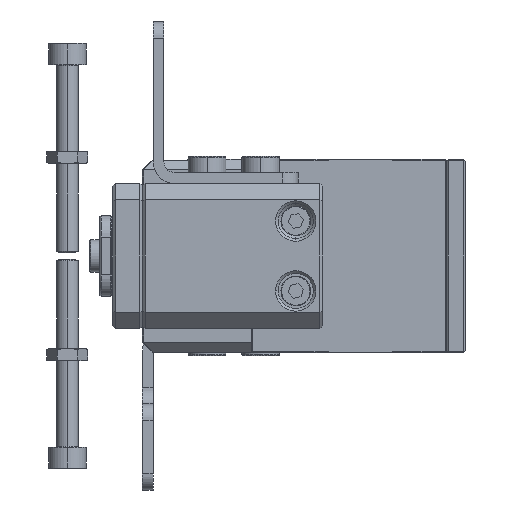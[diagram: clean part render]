
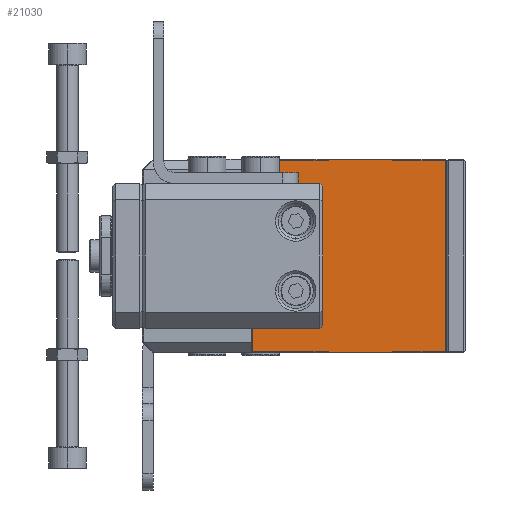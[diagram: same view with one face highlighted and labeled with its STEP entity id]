
A CAD part, left-side view. The second image highlights one B-rep face of the part: STEP entity #21030.
In plain terms, the highlighted planar face has unit normal (-1, 0, 0).
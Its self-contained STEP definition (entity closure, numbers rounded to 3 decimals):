
#434 = VERTEX_POINT ( 'NONE', #36302 ) ;
#1369 = DIRECTION ( 'NONE',  ( 0., 1., 0. ) ) ;
#2192 = VECTOR ( 'NONE', #10774, 1000. ) ;
#2861 = ORIENTED_EDGE ( 'NONE', *, *, #38662, .T. ) ;
#3137 = ORIENTED_EDGE ( 'NONE', *, *, #5703, .F. ) ;
#3786 = EDGE_CURVE ( 'NONE', #434, #41184, #24406, .T. ) ;
#5111 = DIRECTION ( 'NONE',  ( 0., 0., -1. ) ) ;
#5689 = CARTESIAN_POINT ( 'NONE',  ( -53.152, 13.5, -25.919 ) ) ;
#5703 = EDGE_CURVE ( 'NONE', #11508, #12780, #40966, .T. ) ;
#5709 = EDGE_CURVE ( 'NONE', #39042, #40172, #14459, .T. ) ;
#7203 = DIRECTION ( 'NONE',  ( 0., 0., -1. ) ) ;
#7246 = LINE ( 'NONE', #47754, #20368 ) ;
#7817 = DIRECTION ( 'NONE',  ( 0., 0., -1. ) ) ;
#8037 = ORIENTED_EDGE ( 'NONE', *, *, #5709, .T. ) ;
#8479 = CARTESIAN_POINT ( 'NONE',  ( -53.152, 24.5, -26.119 ) ) ;
#9526 = CARTESIAN_POINT ( 'NONE',  ( -53.152, 25.5, 9.881 ) ) ;
#9887 = VERTEX_POINT ( 'NONE', #44200 ) ;
#10543 = CARTESIAN_POINT ( 'NONE',  ( -53.152, 13.5, 9.881 ) ) ;
#10771 = CARTESIAN_POINT ( 'NONE',  ( -53.152, 25.5, 9.881 ) ) ;
#10774 = DIRECTION ( 'NONE',  ( 0., 1., 0. ) ) ;
#11508 = VERTEX_POINT ( 'NONE', #32191 ) ;
#11674 = VECTOR ( 'NONE', #1369, 1000. ) ;
#12049 = DIRECTION ( 'NONE',  ( 0., 0., -1. ) ) ;
#12512 = VECTOR ( 'NONE', #39031, 1000. ) ;
#12780 = VERTEX_POINT ( 'NONE', #29063 ) ;
#13190 = PLANE ( 'NONE',  #43911 ) ;
#13201 = EDGE_CURVE ( 'NONE', #41184, #11508, #44405, .T. ) ;
#14355 = DIRECTION ( 'NONE',  ( 0., 0., 1. ) ) ;
#14427 = ORIENTED_EDGE ( 'NONE', *, *, #24646, .F. ) ;
#14459 = LINE ( 'NONE', #26227, #18655 ) ;
#14634 = CARTESIAN_POINT ( 'NONE',  ( -53.152, 24.5, -25.919 ) ) ;
#15982 = CARTESIAN_POINT ( 'NONE',  ( -53.152, 24.5, 9.681 ) ) ;
#16207 = LINE ( 'NONE', #15982, #12512 ) ;
#16301 = DIRECTION ( 'NONE',  ( 0., 1., 0. ) ) ;
#18156 = DIRECTION ( 'NONE',  ( 0., 1., 0. ) ) ;
#18655 = VECTOR ( 'NONE', #18156, 1000. ) ;
#19264 = ORIENTED_EDGE ( 'NONE', *, *, #26380, .F. ) ;
#20368 = VECTOR ( 'NONE', #14355, 1000. ) ;
#20379 = CARTESIAN_POINT ( 'NONE',  ( -53.152, 25.5, -26.119 ) ) ;
#20444 = ORIENTED_EDGE ( 'NONE', *, *, #36875, .F. ) ;
#21007 = CARTESIAN_POINT ( 'NONE',  ( -53.152, 25.5, 9.681 ) ) ;
#21030 = ADVANCED_FACE ( 'NONE', ( #31355 ), #13190, .F. ) ;
#21813 = VERTEX_POINT ( 'NONE', #29782 ) ;
#23252 = DIRECTION ( 'NONE',  ( 1., 0., 0. ) ) ;
#23360 = LINE ( 'NONE', #45730, #44505 ) ;
#23481 = DIRECTION ( 'NONE',  ( 0., -1., 0. ) ) ;
#23499 = CARTESIAN_POINT ( 'NONE',  ( -53.152, 13.5, 9.881 ) ) ;
#23628 = EDGE_CURVE ( 'NONE', #21813, #36386, #40431, .T. ) ;
#23938 = ORIENTED_EDGE ( 'NONE', *, *, #48511, .F. ) ;
#24406 = LINE ( 'NONE', #8479, #42552 ) ;
#24646 = EDGE_CURVE ( 'NONE', #39042, #45867, #30865, .T. ) ;
#25793 = EDGE_CURVE ( 'NONE', #38083, #47325, #16207, .T. ) ;
#26227 = CARTESIAN_POINT ( 'NONE',  ( -53.152, 24.5, 9.881 ) ) ;
#26380 = EDGE_CURVE ( 'NONE', #12780, #47325, #7246, .T. ) ;
#28851 = ORIENTED_EDGE ( 'NONE', *, *, #23628, .F. ) ;
#29063 = CARTESIAN_POINT ( 'NONE',  ( -53.152, 39.5, -25.919 ) ) ;
#29299 = LINE ( 'NONE', #47716, #38990 ) ;
#29427 = DIRECTION ( 'NONE',  ( 0., 0., 1. ) ) ;
#29782 = CARTESIAN_POINT ( 'NONE',  ( -53.152, 3.7, -25.919 ) ) ;
#30036 = CARTESIAN_POINT ( 'NONE',  ( -53.152, 13.5, 9.681 ) ) ;
#30865 = LINE ( 'NONE', #23499, #32792 ) ;
#31355 = FACE_OUTER_BOUND ( 'NONE', #34519, .T. ) ;
#32009 = ORIENTED_EDGE ( 'NONE', *, *, #3786, .F. ) ;
#32191 = CARTESIAN_POINT ( 'NONE',  ( -53.152, 25.5, -25.919 ) ) ;
#32792 = VECTOR ( 'NONE', #7817, 1000. ) ;
#34519 = EDGE_LOOP ( 'NONE', ( #19264, #3137, #38475, #32009, #35471, #28851, #23938, #20444, #14427, #8037, #2861, #35052 ) ) ;
#34768 = LINE ( 'NONE', #46317, #45150 ) ;
#35052 = ORIENTED_EDGE ( 'NONE', *, *, #25793, .T. ) ;
#35471 = ORIENTED_EDGE ( 'NONE', *, *, #38567, .F. ) ;
#35818 = VECTOR ( 'NONE', #12049, 1000. ) ;
#36302 = CARTESIAN_POINT ( 'NONE',  ( -53.152, 13.5, -26.119 ) ) ;
#36386 = VERTEX_POINT ( 'NONE', #5689 ) ;
#36875 = EDGE_CURVE ( 'NONE', #45867, #9887, #34768, .T. ) ;
#37816 = LINE ( 'NONE', #45674, #35818 ) ;
#38083 = VERTEX_POINT ( 'NONE', #21007 ) ;
#38475 = ORIENTED_EDGE ( 'NONE', *, *, #13201, .F. ) ;
#38567 = EDGE_CURVE ( 'NONE', #36386, #434, #29299, .T. ) ;
#38601 = DIRECTION ( 'NONE',  ( 0., 0., -1. ) ) ;
#38662 = EDGE_CURVE ( 'NONE', #40172, #38083, #23360, .T. ) ;
#38990 = VECTOR ( 'NONE', #7203, 1000. ) ;
#39031 = DIRECTION ( 'NONE',  ( 0., 1., 0. ) ) ;
#39042 = VERTEX_POINT ( 'NONE', #10543 ) ;
#39200 = CARTESIAN_POINT ( 'NONE',  ( -53.152, 24.5, 9.881 ) ) ;
#39203 = VECTOR ( 'NONE', #29427, 1000. ) ;
#40172 = VERTEX_POINT ( 'NONE', #9526 ) ;
#40431 = LINE ( 'NONE', #14634, #11674 ) ;
#40480 = CARTESIAN_POINT ( 'NONE',  ( -53.152, 24.5, -25.919 ) ) ;
#40966 = LINE ( 'NONE', #40480, #2192 ) ;
#41184 = VERTEX_POINT ( 'NONE', #20379 ) ;
#42552 = VECTOR ( 'NONE', #16301, 1000. ) ;
#43911 = AXIS2_PLACEMENT_3D ( 'NONE', #39200, #23252, #5111 ) ;
#44200 = CARTESIAN_POINT ( 'NONE',  ( -53.152, 3.7, 9.681 ) ) ;
#44405 = LINE ( 'NONE', #10771, #39203 ) ;
#44505 = VECTOR ( 'NONE', #38601, 1000. ) ;
#45150 = VECTOR ( 'NONE', #23481, 1000. ) ;
#45674 = CARTESIAN_POINT ( 'NONE',  ( -53.152, 3.7, 9.881 ) ) ;
#45730 = CARTESIAN_POINT ( 'NONE',  ( -53.152, 25.5, -24.619 ) ) ;
#45867 = VERTEX_POINT ( 'NONE', #30036 ) ;
#46317 = CARTESIAN_POINT ( 'NONE',  ( -53.152, 24.5, 9.681 ) ) ;
#47325 = VERTEX_POINT ( 'NONE', #47652 ) ;
#47652 = CARTESIAN_POINT ( 'NONE',  ( -53.152, 39.5, 9.681 ) ) ;
#47716 = CARTESIAN_POINT ( 'NONE',  ( -53.152, 13.5, 9.881 ) ) ;
#47754 = CARTESIAN_POINT ( 'NONE',  ( -53.152, 39.5, 9.881 ) ) ;
#48511 = EDGE_CURVE ( 'NONE', #9887, #21813, #37816, .T. ) ;
